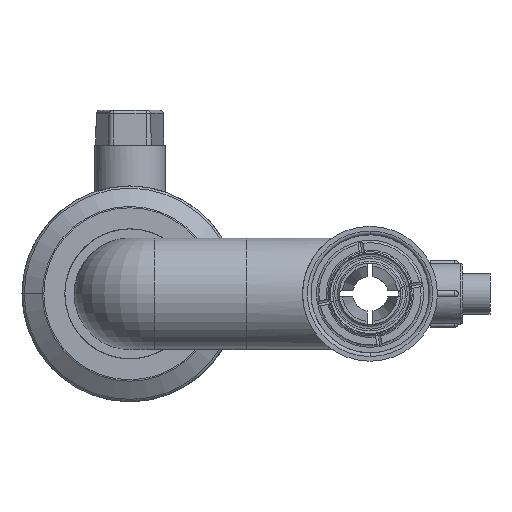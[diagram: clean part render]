
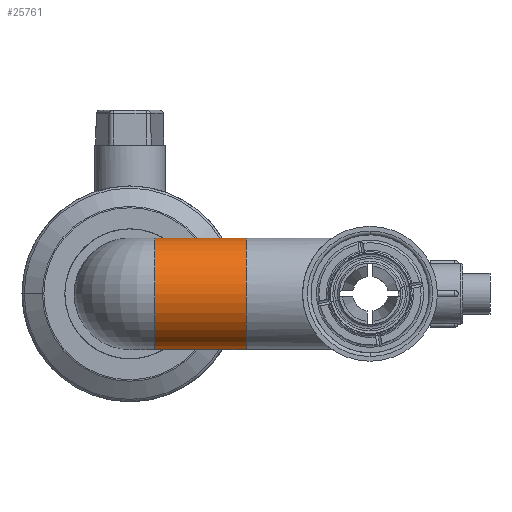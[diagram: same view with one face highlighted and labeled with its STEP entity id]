
A CAD part, left-side view. The second image highlights one B-rep face of the part: STEP entity #25761.
In plain terms, the highlighted cylindrical face has radius 28.575 mm (diameter 57.15 mm), a partial arc.
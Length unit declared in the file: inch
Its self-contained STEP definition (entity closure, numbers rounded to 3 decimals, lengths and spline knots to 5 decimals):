
#1266 = CARTESIAN_POINT ( 'NONE',  ( -13.01343, 1.47402, 0. ) ) ;
#1274 = VECTOR ( 'NONE', #4075, 39.37008 ) ;
#1663 = EDGE_CURVE ( 'NONE', #23928, #3885, #4193, .T. ) ;
#2026 = EDGE_CURVE ( 'NONE', #3885, #34664, #25732, .T. ) ;
#2738 = DIRECTION ( 'NONE',  ( 0., 0., 1. ) ) ;
#3885 = VERTEX_POINT ( 'NONE', #10696 ) ;
#4075 = DIRECTION ( 'NONE',  ( 0., -1., 0. ) ) ;
#4193 = CIRCLE ( 'NONE', #14340, 1.125 ) ;
#6268 = ORIENTED_EDGE ( 'NONE', *, *, #1663, .F. ) ;
#10696 = CARTESIAN_POINT ( 'NONE',  ( -13.01343, 2.31802, 1.125 ) ) ;
#11443 = CARTESIAN_POINT ( 'NONE',  ( -13.01343, 0.47402, 1.125 ) ) ;
#13855 = CARTESIAN_POINT ( 'NONE',  ( -13.01343, 1.47402, -1.125 ) ) ;
#14340 = AXIS2_PLACEMENT_3D ( 'NONE', #39434, #21125, #2738 ) ;
#15008 = CARTESIAN_POINT ( 'NONE',  ( -13.01343, 0.47402, 0. ) ) ;
#15066 = AXIS2_PLACEMENT_3D ( 'NONE', #1266, #37953, #16700 ) ;
#16700 = DIRECTION ( 'NONE',  ( 0., 0., -1. ) ) ;
#18112 = DIRECTION ( 'NONE',  ( 0., 0., 1. ) ) ;
#19913 = ORIENTED_EDGE ( 'NONE', *, *, #2026, .F. ) ;
#20203 = ORIENTED_EDGE ( 'NONE', *, *, #24886, .T. ) ;
#20361 = VERTEX_POINT ( 'NONE', #32204 ) ;
#21125 = DIRECTION ( 'NONE',  ( 0., 1., 0. ) ) ;
#23928 = VERTEX_POINT ( 'NONE', #32829 ) ;
#24886 = EDGE_CURVE ( 'NONE', #23928, #20361, #28543, .T. ) ;
#25732 = LINE ( 'NONE', #34639, #1274 ) ;
#25761 = ADVANCED_FACE ( 'NONE', ( #30594 ), #34880, .T. ) ;
#28543 = LINE ( 'NONE', #13855, #35732 ) ;
#29445 = ORIENTED_EDGE ( 'NONE', *, *, #36892, .T. ) ;
#30594 = FACE_OUTER_BOUND ( 'NONE', #31614, .T. ) ;
#31614 = EDGE_LOOP ( 'NONE', ( #19913, #6268, #20203, #29445 ) ) ;
#32139 = DIRECTION ( 'NONE',  ( 0., -1., 0. ) ) ;
#32204 = CARTESIAN_POINT ( 'NONE',  ( -13.01343, 0.47402, -1.125 ) ) ;
#32818 = CIRCLE ( 'NONE', #33915, 1.125 ) ;
#32829 = CARTESIAN_POINT ( 'NONE',  ( -13.01343, 2.31802, -1.125 ) ) ;
#33915 = AXIS2_PLACEMENT_3D ( 'NONE', #15008, #36419, #18112 ) ;
#34639 = CARTESIAN_POINT ( 'NONE',  ( -13.01343, 1.47402, 1.125 ) ) ;
#34664 = VERTEX_POINT ( 'NONE', #11443 ) ;
#34880 = CYLINDRICAL_SURFACE ( 'NONE', #15066, 1.125 ) ;
#35732 = VECTOR ( 'NONE', #32139, 39.37008 ) ;
#36419 = DIRECTION ( 'NONE',  ( 0., 1., 0. ) ) ;
#36892 = EDGE_CURVE ( 'NONE', #20361, #34664, #32818, .T. ) ;
#37953 = DIRECTION ( 'NONE',  ( 0., -1., 0. ) ) ;
#39434 = CARTESIAN_POINT ( 'NONE',  ( -13.01343, 2.31802, 0. ) ) ;
